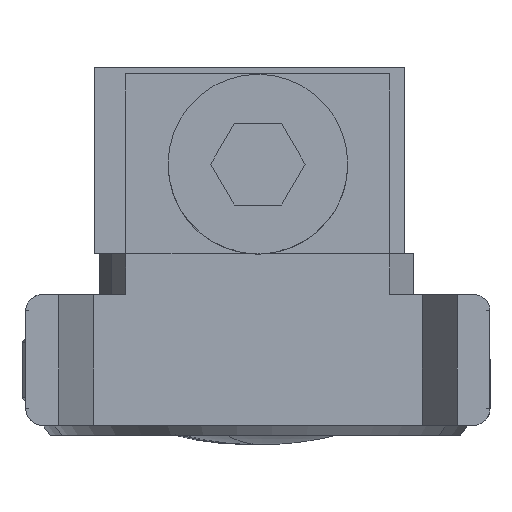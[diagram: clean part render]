
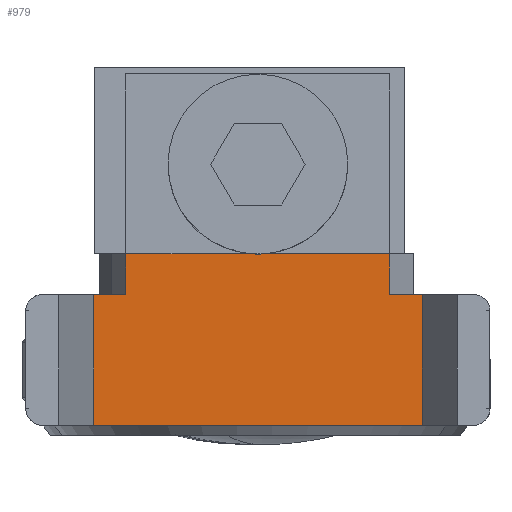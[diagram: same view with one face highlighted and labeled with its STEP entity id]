
A CAD part, left-side view. The second image highlights one B-rep face of the part: STEP entity #979.
In plain terms, the highlighted planar face has unit normal (-1, 0, 0).
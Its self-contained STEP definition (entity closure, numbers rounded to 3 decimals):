
#168 = DIRECTION ( 'NONE',  ( 0., 0., 1. ) ) ;
#362 = CARTESIAN_POINT ( 'NONE',  ( 4., 0., -4.04 ) ) ;
#366 = CARTESIAN_POINT ( 'NONE',  ( 4., 1.25, -5.028 ) ) ;
#454 = VECTOR ( 'NONE', #842, 1000. ) ;
#723 = DIRECTION ( 'NONE',  ( 0., 0., 1. ) ) ;
#765 = LINE ( 'NONE', #4487, #1228 ) ;
#771 = CARTESIAN_POINT ( 'NONE',  ( 4., 0., -4.04 ) ) ;
#835 = VECTOR ( 'NONE', #4046, 1000. ) ;
#842 = DIRECTION ( 'NONE',  ( 0., 0., -1. ) ) ;
#925 = EDGE_CURVE ( 'NONE', #3759, #4748, #765, .T. ) ;
#967 = CARTESIAN_POINT ( 'NONE',  ( 4., 0., 4.04 ) ) ;
#979 = ADVANCED_FACE ( 'NONE', ( #6366 ), #3757, .T. ) ;
#1115 = LINE ( 'NONE', #362, #2142 ) ;
#1157 = EDGE_CURVE ( 'NONE', #2353, #4321, #1789, .T. ) ;
#1228 = VECTOR ( 'NONE', #2667, 1000. ) ;
#1239 = CARTESIAN_POINT ( 'NONE',  ( 4., 0., -5.028 ) ) ;
#1308 = EDGE_LOOP ( 'NONE', ( #2692, #2292, #3151, #2133, #1886, #3359, #3565, #2049, #3046, #6362 ) ) ;
#1315 = EDGE_CURVE ( 'NONE', #3282, #1649, #2778, .T. ) ;
#1506 = LINE ( 'NONE', #3033, #2583 ) ;
#1590 = CARTESIAN_POINT ( 'NONE',  ( 4., -4., 0. ) ) ;
#1649 = VERTEX_POINT ( 'NONE', #5536 ) ;
#1658 = CARTESIAN_POINT ( 'NONE',  ( 4., -4., 5.028 ) ) ;
#1789 = LINE ( 'NONE', #2722, #454 ) ;
#1808 = DIRECTION ( 'NONE',  ( 0., -1., 0. ) ) ;
#1859 = LINE ( 'NONE', #366, #5656 ) ;
#1886 = ORIENTED_EDGE ( 'NONE', *, *, #3689, .T. ) ;
#1913 = DIRECTION ( 'NONE',  ( 0., -1., 0. ) ) ;
#2049 = ORIENTED_EDGE ( 'NONE', *, *, #5414, .T. ) ;
#2133 = ORIENTED_EDGE ( 'NONE', *, *, #4712, .F. ) ;
#2142 = VECTOR ( 'NONE', #1913, 1000. ) ;
#2292 = ORIENTED_EDGE ( 'NONE', *, *, #5677, .F. ) ;
#2344 = AXIS2_PLACEMENT_3D ( 'NONE', #6163, #5722, #168 ) ;
#2353 = VERTEX_POINT ( 'NONE', #3742 ) ;
#2583 = VECTOR ( 'NONE', #4545, 1000. ) ;
#2655 = DIRECTION ( 'NONE',  ( 0., -1., 0. ) ) ;
#2667 = DIRECTION ( 'NONE',  ( 0., 0., 1. ) ) ;
#2692 = ORIENTED_EDGE ( 'NONE', *, *, #6328, .T. ) ;
#2722 = CARTESIAN_POINT ( 'NONE',  ( 4., 1.25, -5.028 ) ) ;
#2778 = LINE ( 'NONE', #1658, #6437 ) ;
#3033 = CARTESIAN_POINT ( 'NONE',  ( 4., 0., 4.04 ) ) ;
#3046 = ORIENTED_EDGE ( 'NONE', *, *, #4634, .T. ) ;
#3053 = VERTEX_POINT ( 'NONE', #967 ) ;
#3151 = ORIENTED_EDGE ( 'NONE', *, *, #1157, .T. ) ;
#3282 = VERTEX_POINT ( 'NONE', #6015 ) ;
#3359 = ORIENTED_EDGE ( 'NONE', *, *, #5612, .T. ) ;
#3538 = LINE ( 'NONE', #1239, #3846 ) ;
#3565 = ORIENTED_EDGE ( 'NONE', *, *, #925, .F. ) ;
#3689 = EDGE_CURVE ( 'NONE', #6392, #4888, #1859, .T. ) ;
#3742 = CARTESIAN_POINT ( 'NONE',  ( 4., 1.25, 4.04 ) ) ;
#3757 = PLANE ( 'NONE',  #4150 ) ;
#3759 = VERTEX_POINT ( 'NONE', #6410 ) ;
#3846 = VECTOR ( 'NONE', #6117, 1000. ) ;
#3851 = DIRECTION ( 'NONE',  ( 0., 0., -1. ) ) ;
#4046 = DIRECTION ( 'NONE',  ( 0., 0., 1. ) ) ;
#4150 = AXIS2_PLACEMENT_3D ( 'NONE', #6122, #4757, #723 ) ;
#4321 = VERTEX_POINT ( 'NONE', #4340 ) ;
#4340 = CARTESIAN_POINT ( 'NONE',  ( 4., 1.25, 0.234 ) ) ;
#4487 = CARTESIAN_POINT ( 'NONE',  ( 4., 0., 0. ) ) ;
#4545 = DIRECTION ( 'NONE',  ( 0., -1., 0. ) ) ;
#4571 = VERTEX_POINT ( 'NONE', #4618 ) ;
#4618 = CARTESIAN_POINT ( 'NONE',  ( 4., -4., -5.028 ) ) ;
#4634 = EDGE_CURVE ( 'NONE', #4571, #1649, #5477, .T. ) ;
#4712 = EDGE_CURVE ( 'NONE', #6392, #4321, #5330, .T. ) ;
#4748 = VERTEX_POINT ( 'NONE', #771 ) ;
#4757 = DIRECTION ( 'NONE',  ( -1., 0., 0. ) ) ;
#4826 = CARTESIAN_POINT ( 'NONE',  ( 4., 1.25, -4.04 ) ) ;
#4888 = VERTEX_POINT ( 'NONE', #4826 ) ;
#5299 = CARTESIAN_POINT ( 'NONE',  ( 4., 1.25, -0.234 ) ) ;
#5330 = CIRCLE ( 'NONE', #2344, 2.75 ) ;
#5397 = LINE ( 'NONE', #5695, #5868 ) ;
#5414 = EDGE_CURVE ( 'NONE', #3759, #4571, #5397, .T. ) ;
#5477 = LINE ( 'NONE', #1590, #835 ) ;
#5536 = CARTESIAN_POINT ( 'NONE',  ( 4., -4., 5.028 ) ) ;
#5612 = EDGE_CURVE ( 'NONE', #4888, #4748, #1115, .T. ) ;
#5656 = VECTOR ( 'NONE', #3851, 1000. ) ;
#5677 = EDGE_CURVE ( 'NONE', #2353, #3053, #1506, .T. ) ;
#5695 = CARTESIAN_POINT ( 'NONE',  ( 4., -4., -5.028 ) ) ;
#5722 = DIRECTION ( 'NONE',  ( -1., 0., 0. ) ) ;
#5868 = VECTOR ( 'NONE', #1808, 1000. ) ;
#6015 = CARTESIAN_POINT ( 'NONE',  ( 4., 0., 5.028 ) ) ;
#6117 = DIRECTION ( 'NONE',  ( 0., 0., -1. ) ) ;
#6122 = CARTESIAN_POINT ( 'NONE',  ( 4., -4., -5.028 ) ) ;
#6163 = CARTESIAN_POINT ( 'NONE',  ( 4., 3.99, 0. ) ) ;
#6328 = EDGE_CURVE ( 'NONE', #3282, #3053, #3538, .T. ) ;
#6362 = ORIENTED_EDGE ( 'NONE', *, *, #1315, .F. ) ;
#6366 = FACE_OUTER_BOUND ( 'NONE', #1308, .T. ) ;
#6392 = VERTEX_POINT ( 'NONE', #5299 ) ;
#6410 = CARTESIAN_POINT ( 'NONE',  ( 4., 0., -5.028 ) ) ;
#6437 = VECTOR ( 'NONE', #2655, 1000. ) ;
